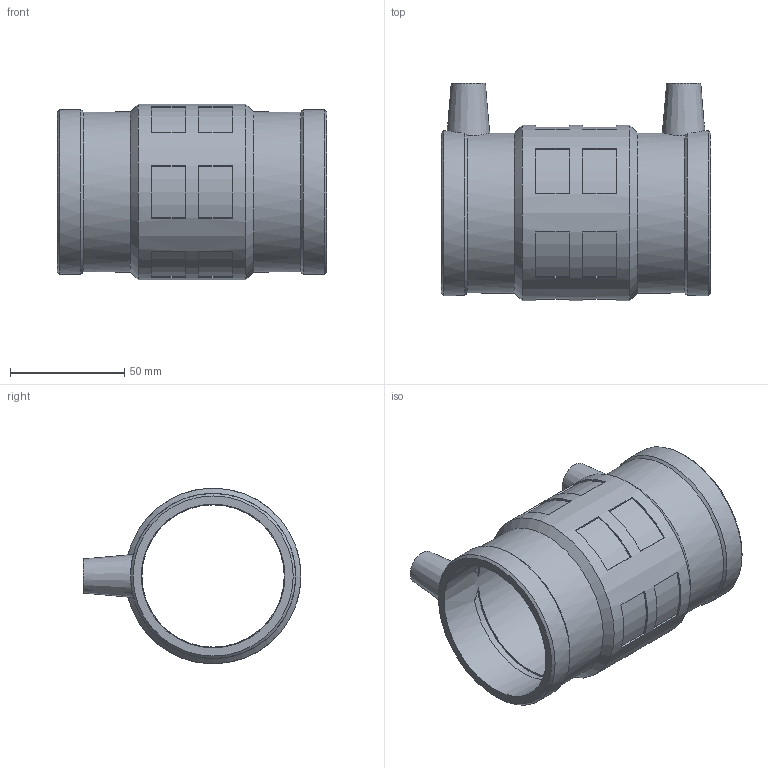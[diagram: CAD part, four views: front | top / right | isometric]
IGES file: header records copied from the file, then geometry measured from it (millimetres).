
Global section: file name: 460104063.ipt; native system: Autodesk Inventor 2015; preprocessor: unknown; author: KIM; date: 20171106.093411; units: millimetre
Bounding box: 118 x 95.5 x 77 mm (x, y, z)
Volume: 138144.3 mm3; surface area: 57531.2 mm2
Topology: 1 solids, 1 shells, 98 faces, 240 edges, 160 vertices
Faces by surface type: plane 60, cylinder 19, cone 12, revolution 7
Full cylindrical faces by diameter (mm): 4 x2, 70.209 x2, 72.38 x2, 77 x1
